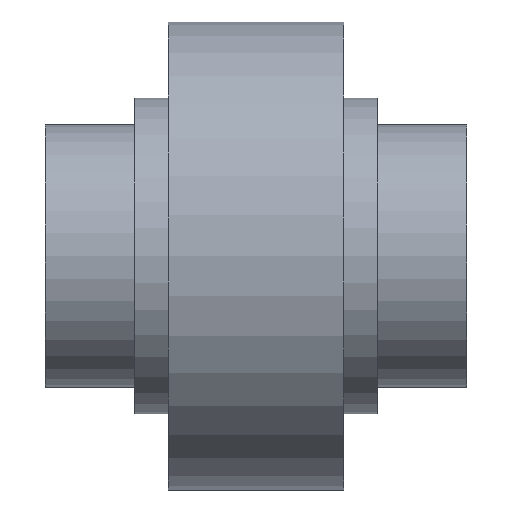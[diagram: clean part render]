
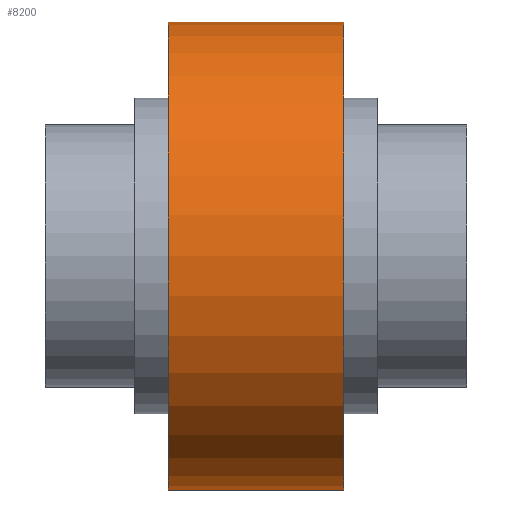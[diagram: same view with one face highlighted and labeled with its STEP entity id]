
A CAD part, top view. The second image highlights one B-rep face of the part: STEP entity #8200.
In plain terms, the highlighted cylindrical face has radius 200 mm (diameter 400 mm), a partial arc.
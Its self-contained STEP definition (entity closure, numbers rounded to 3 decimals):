
#7952=CARTESIAN_POINT('',(75.,0.,0.));
#7953=DIRECTION('',(1.,0.,0.));
#7954=DIRECTION('',(0.,1.,0.));
#7955=AXIS2_PLACEMENT_3D('',#7952,#7953,#7954);
#7957=DIRECTION('',(-1.,0.,0.));
#7958=VECTOR('',#7957,150.);
#7959=CARTESIAN_POINT('',(75.,200.,0.));
#7960=LINE('',#7959,#7958);
#7961=DIRECTION('',(-1.,0.,0.));
#7962=VECTOR('',#7961,150.);
#7963=CARTESIAN_POINT('',(75.,-200.,0.));
#7964=LINE('',#7963,#7962);
#7975=CARTESIAN_POINT('',(-75.,0.,0.));
#7976=DIRECTION('',(1.,0.,0.));
#7977=DIRECTION('',(0.,1.,0.));
#7978=AXIS2_PLACEMENT_3D('',#7975,#7976,#7977);
#8032=CARTESIAN_POINT('',(75.,200.,0.));
#8033=CARTESIAN_POINT('',(-75.,200.,0.));
#8034=VERTEX_POINT('',#8032);
#8035=VERTEX_POINT('',#8033);
#8040=CARTESIAN_POINT('',(75.,-200.,0.));
#8041=CARTESIAN_POINT('',(-75.,-200.,0.));
#8042=VERTEX_POINT('',#8040);
#8043=VERTEX_POINT('',#8041);
#8186=CARTESIAN_POINT('',(-82.5,0.,0.));
#8187=DIRECTION('',(1.,0.,0.));
#8188=DIRECTION('',(0.,-1.,0.));
#8189=AXIS2_PLACEMENT_3D('',#8186,#8187,#8188);
#8190=CYLINDRICAL_SURFACE('',#8189,200.);
#8192=ORIENTED_EDGE('',*,*,#8191,.F.);
#8193=ORIENTED_EDGE('',*,*,#8175,.T.);
#8195=ORIENTED_EDGE('',*,*,#8194,.T.);
#8197=ORIENTED_EDGE('',*,*,#8196,.F.);
#8198=EDGE_LOOP('',(#8192,#8193,#8195,#8197));
#8199=FACE_OUTER_BOUND('',#8198,.F.);
#8200=ADVANCED_FACE('',(#8199),#8190,.T.);
#7956=CIRCLE('',#7955,200.);
#7979=CIRCLE('',#7978,200.);
#8175=EDGE_CURVE('',#8034,#8042,#7956,.T.);
#8191=EDGE_CURVE('',#8034,#8035,#7960,.T.);
#8194=EDGE_CURVE('',#8042,#8043,#7964,.T.);
#8196=EDGE_CURVE('',#8035,#8043,#7979,.T.);
